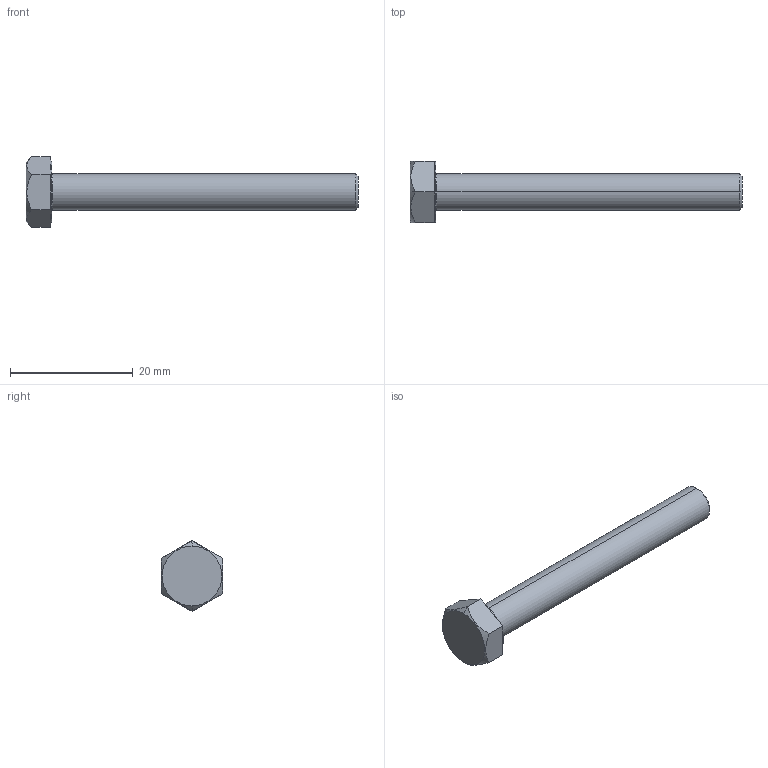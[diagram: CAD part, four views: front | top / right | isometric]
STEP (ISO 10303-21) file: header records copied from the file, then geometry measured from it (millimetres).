
FILE_DESCRIPTION (( 'STEP AP203' ), '1' );
FILE_NAME ('LGN-TD-M6x50.STEP', '2026-08-14T04:03:47', ( '' ), ( '' ), 'SwSTEP 2.0', 'SolidWorks 2020', '' );
FILE_SCHEMA (( 'CONFIG_CONTROL_DESIGN' ));
Length unit declared in the file: millimetre
Products named in the file (1): LGN-TD-M6x50
Bounding box: 54.2 x 10 x 11.55 mm (x, y, z)
Volume: 1771.4 mm3; surface area: 1245.7 mm2
Topology: 1 solids, 1 shells, 25 faces, 54 edges, 32 vertices
Faces by surface type: plane 15, cone 4, cylinder 4, torus 2
Entity records: 809 total; most frequent: CARTESIAN_POINT 182, DIRECTION 122, ORIENTED_EDGE 108, EDGE_CURVE 54, AXIS2_PLACEMENT_3D 48, VERTEX_POINT 32, EDGE_LOOP 26, LINE 26
